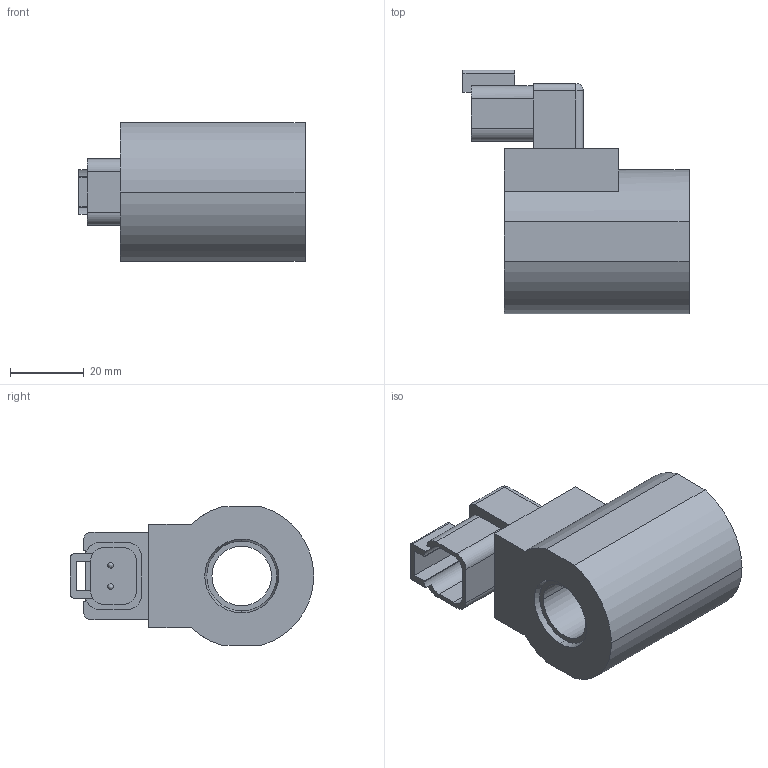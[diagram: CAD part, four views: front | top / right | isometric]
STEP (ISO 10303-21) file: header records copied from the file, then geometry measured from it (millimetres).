
FILE_DESCRIPTION (( 'STEP AP214' ), '1' );
FILE_NAME ('KG35_16.STEP', '2017-03-23T14:48:52', ( '' ), ( '' ), 'SwSTEP 2.0', 'SolidWorks 2016', '' );
FILE_SCHEMA (( 'AUTOMOTIVE_DESIGN' ));
Length unit declared in the file: millimetre
Products named in the file (1): KG35_16
Bounding box: 61.2 x 65.9 x 37.5 mm (x, y, z)
Volume: 62445.3 mm3; surface area: 15099.7 mm2
Topology: 1 solids, 1 shells, 69 faces, 190 edges, 120 vertices
Faces by surface type: plane 37, cylinder 24, cone 4, bspline 4
Entity records: 2981 total; most frequent: CARTESIAN_POINT 434, DIRECTION 380, ORIENTED_EDGE 368, EDGE_CURVE 184, AXIS2_PLACEMENT_3D 130, VERTEX_POINT 120, LINE 120, VECTOR 120
